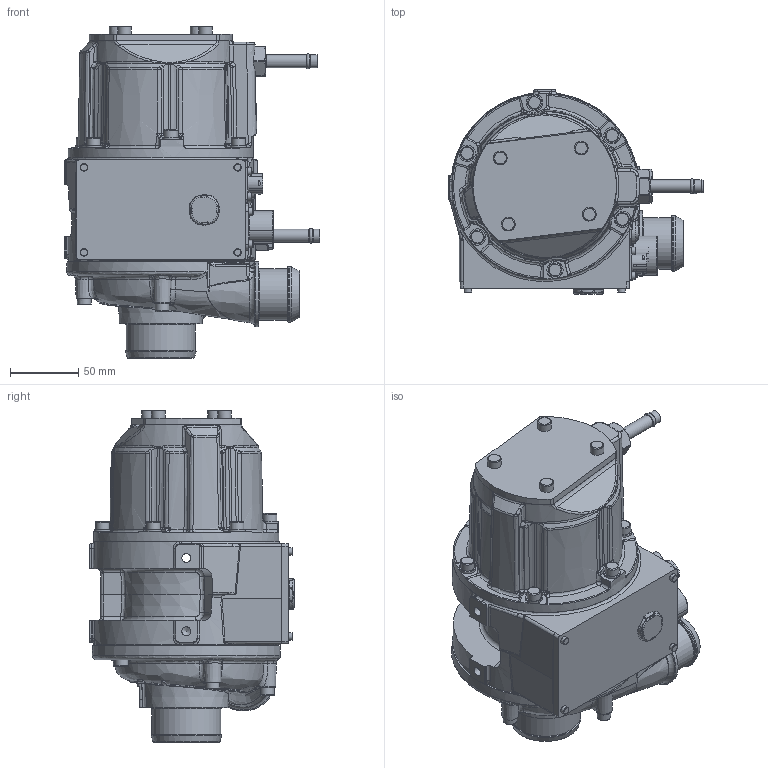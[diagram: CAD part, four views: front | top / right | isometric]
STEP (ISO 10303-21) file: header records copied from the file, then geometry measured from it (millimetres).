
FILE_DESCRIPTION(/* description */ (''),/* implementation_level */ '2;1');
FILE_NAME(/* name */ '',/* time_stamp */ '2023-02-06T11:54:28+01:00',/* author */ (''),/* organization */ (''),/* preprocessor_version */ 'ST-DEVELOPER v18.1',/* originating_system */ 'Autodesk Inventor 2021',/* authorisation */ '');
FILE_SCHEMA (('AUTOMOTIVE_DESIGN { 1 0 10303 214 3 1 1 }'));
Products named in the file (1): 025683
Bounding box: 187.9 x 150.25 x 244.1 mm (x, y, z)
Volume: 2552167.5 mm3; surface area: 160963.3 mm2
Topology: 1 solids, 1 shells, 2196 faces, 5903 edges, 3709 vertices
Faces by surface type: plane 747, bspline 537, cylinder 535, torus 234, cone 108, sphere 35
Full cylindrical faces by diameter (mm): 4.134 x1, 4.2 x1, 4.55 x3, 4.917 x1, 5.15 x3, 5.5 x12, 6 x3, 6.647 x5, 7.5 x2, 8 x3, 9.5 x4, 10 x15, 10.26 x1, 10.4 x1, 11 x3, 11.5 x1, 12 x6, 15 x1, 15.8 x1, 18 x1, 32 x1, 38 x1, 41 x1, 44.8 x1, 48 x1, 50.8 x1, 136 x1
Entity records: 92041 total; most frequent: CARTESIAN_POINT 38436, ORIENTED_EDGE 11704, DIRECTION 9422, EDGE_CURVE 5852, VERTEX_POINT 3705, AXIS2_PLACEMENT_3D 3642, EDGE_LOOP 2336, FACE_OUTER_BOUND 2192
